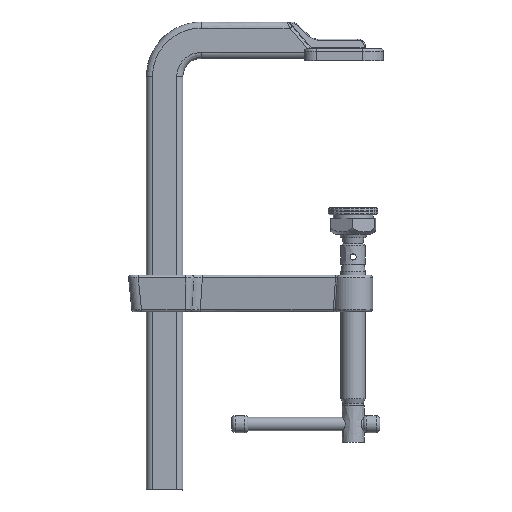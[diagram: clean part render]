
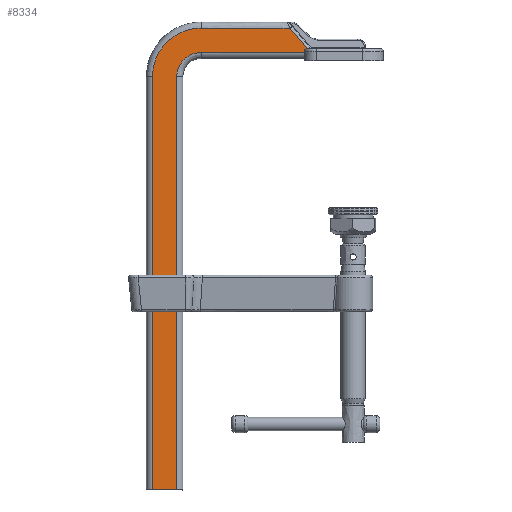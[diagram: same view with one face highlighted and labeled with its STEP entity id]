
A CAD part, front view. The second image highlights one B-rep face of the part: STEP entity #8334.
In plain terms, the highlighted free-form (B-spline) face has degree [1, 1] with [2, 2] control points.
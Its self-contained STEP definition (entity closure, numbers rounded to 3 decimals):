
#7576=CARTESIAN_POINT('',(145.,7.5,-353.));
#7577=VERTEX_POINT('',#7576);
#7584=CARTESIAN_POINT('',(165.,7.5,-353.));
#7585=VERTEX_POINT('',#7584);
#7586=CARTESIAN_POINT('',(145.,7.5,-353.));
#7587=CARTESIAN_POINT('',(165.,7.5,-353.));
#7588=B_SPLINE_CURVE_WITH_KNOTS('',1,(#7586,#7587),.POLYLINE_FORM.,.F.,.U.,(2,2),(0.202,0.798),.UNSPECIFIED.);
#7589=EDGE_CURVE('',#7577,#7585,#7588,.T.);
#7678=CARTESIAN_POINT('',(51.869,7.5,27.));
#7679=VERTEX_POINT('',#7678);
#7715=CARTESIAN_POINT('',(125.,7.5,27.));
#7716=VERTEX_POINT('',#7715);
#7723=CARTESIAN_POINT('',(51.869,7.5,27.));
#7724=CARTESIAN_POINT('',(125.,7.5,27.));
#7725=B_SPLINE_CURVE_WITH_KNOTS('',1,(#7723,#7724),.POLYLINE_FORM.,.F.,.U.,(2,2),(0.216,0.955),.UNSPECIFIED.);
#7726=EDGE_CURVE('',#7679,#7716,#7725,.T.);
#7940=CARTESIAN_POINT('',(125.,7.5,7.));
#7941=VERTEX_POINT('',#7940);
#7948=CARTESIAN_POINT('',(145.,7.5,-13.));
#7949=VERTEX_POINT('',#7948);
#7950=CARTESIAN_POINT('',(125.,7.5,7.));
#7951=CARTESIAN_POINT('',(133.284,7.5,7.));
#7952=CARTESIAN_POINT('',(139.142,7.5,1.142));
#7953=CARTESIAN_POINT('',(145.,7.5,-4.716));
#7954=CARTESIAN_POINT('',(145.,7.5,-13.));
#7955=(BOUNDED_CURVE()B_SPLINE_CURVE(2,(#7950,#7951,#7952,#7953,#7954),.CIRCULAR_ARC.,.F.,.U.)B_SPLINE_CURVE_WITH_KNOTS((3,2,3),(0.,0.5,1.),.UNSPECIFIED.)CURVE()GEOMETRIC_REPRESENTATION_ITEM()RATIONAL_B_SPLINE_CURVE((1.,0.924,1.,0.924,1.))REPRESENTATION_ITEM(''));
#7956=EDGE_CURVE('',#7941,#7949,#7955,.T.);
#7983=CARTESIAN_POINT('',(165.,7.5,-13.));
#7984=VERTEX_POINT('',#7983);
#7985=CARTESIAN_POINT('',(125.,7.5,27.));
#7986=CARTESIAN_POINT('',(141.569,7.5,27.));
#7987=CARTESIAN_POINT('',(153.284,7.5,15.284));
#7988=CARTESIAN_POINT('',(165.,7.5,3.569));
#7989=CARTESIAN_POINT('',(165.,7.5,-13.));
#7990=(BOUNDED_CURVE()B_SPLINE_CURVE(2,(#7985,#7986,#7987,#7988,#7989),.CIRCULAR_ARC.,.F.,.U.)B_SPLINE_CURVE_WITH_KNOTS((3,2,3),(0.,0.5,1.),.UNSPECIFIED.)CURVE()GEOMETRIC_REPRESENTATION_ITEM()RATIONAL_B_SPLINE_CURVE((1.,0.924,1.,0.924,1.))REPRESENTATION_ITEM(''));
#7991=EDGE_CURVE('',#7716,#7984,#7990,.T.);
#8110=CARTESIAN_POINT('',(145.,7.5,-13.));
#8111=CARTESIAN_POINT('',(145.,7.5,-353.));
#8112=B_SPLINE_CURVE_WITH_KNOTS('',1,(#8110,#8111),.POLYLINE_FORM.,.F.,.U.,(2,2),(0.,1.),.UNSPECIFIED.);
#8113=EDGE_CURVE('',#7949,#7577,#8112,.T.);
#8126=CARTESIAN_POINT('',(165.,7.5,-13.));
#8127=CARTESIAN_POINT('',(165.,7.5,-353.));
#8128=B_SPLINE_CURVE_WITH_KNOTS('',1,(#8126,#8127),.POLYLINE_FORM.,.F.,.U.,(2,2),(0.045,0.955),.UNSPECIFIED.);
#8129=EDGE_CURVE('',#7984,#7585,#8128,.T.);
#8274=CARTESIAN_POINT('',(39.987,7.5,7.));
#8275=VERTEX_POINT('',#8274);
#8283=CARTESIAN_POINT('',(39.987,7.5,7.));
#8284=CARTESIAN_POINT('',(125.,7.5,7.));
#8285=B_SPLINE_CURVE_WITH_KNOTS('',1,(#8283,#8284),.POLYLINE_FORM.,.F.,.U.,(2,2),(0.055,1.),.UNSPECIFIED.);
#8286=EDGE_CURVE('',#8275,#7941,#8285,.T.);
#8292=CARTESIAN_POINT('',(30.634,7.5,-366.154));
#8293=CARTESIAN_POINT('',(169.017,7.5,-366.154));
#8294=CARTESIAN_POINT('',(30.634,7.5,38.554));
#8295=CARTESIAN_POINT('',(169.017,7.5,38.554));
#8296=B_SPLINE_SURFACE_WITH_KNOTS('',1,1,((#8292,#8293),(#8294,#8295)),.PLANE_SURF.,.F.,.F.,.U.,(2,2),(2,2),(0.,1.),(0.,1.),.UNSPECIFIED.);
#8297=CARTESIAN_POINT('',(37.605,7.5,10.));
#8298=VERTEX_POINT('',#8297);
#8299=CARTESIAN_POINT('',(51.869,7.5,27.));
#8300=CARTESIAN_POINT('',(37.605,7.5,10.));
#8301=B_SPLINE_CURVE_WITH_KNOTS('',1,(#8299,#8300),.POLYLINE_FORM.,.F.,.U.,(2,2),(0.,0.93),.UNSPECIFIED.);
#8302=EDGE_CURVE('',#7679,#8298,#8301,.T.);
#8303=ORIENTED_EDGE('',*,*,#8302,.F.);
#8304=ORIENTED_EDGE('',*,*,#7726,.T.);
#8305=ORIENTED_EDGE('',*,*,#7991,.T.);
#8306=ORIENTED_EDGE('',*,*,#8129,.T.);
#8307=ORIENTED_EDGE('',*,*,#7589,.F.);
#8308=ORIENTED_EDGE('',*,*,#8113,.F.);
#8309=ORIENTED_EDGE('',*,*,#7956,.F.);
#8310=ORIENTED_EDGE('',*,*,#8286,.F.);
#8311=CARTESIAN_POINT('',(39.987,7.5,8.));
#8312=VERTEX_POINT('',#8311);
#8313=CARTESIAN_POINT('',(39.987,7.5,7.));
#8314=CARTESIAN_POINT('',(39.987,7.5,8.));
#8315=B_SPLINE_CURVE_WITH_KNOTS('',1,(#8313,#8314),.POLYLINE_FORM.,.F.,.U.,(2,2),(0.7,0.8),.UNSPECIFIED.);
#8316=EDGE_CURVE('',#8275,#8312,#8315,.T.);
#8317=ORIENTED_EDGE('',*,*,#8316,.T.);
#8318=CARTESIAN_POINT('',(37.984,7.5,10.));
#8319=VERTEX_POINT('',#8318);
#8320=CARTESIAN_POINT('',(37.984,7.5,10.));
#8321=CARTESIAN_POINT('',(39.093,7.5,10.));
#8322=CARTESIAN_POINT('',(39.987,7.5,9.107));
#8323=CARTESIAN_POINT('',(39.987,7.5,8.));
#8324=B_SPLINE_CURVE_WITH_KNOTS('',3,(#8320,#8321,#8322,#8323),.UNSPECIFIED.,.F.,.U.,(4,4),(0.,1.),.UNSPECIFIED.);
#8325=EDGE_CURVE('',#8319,#8312,#8324,.T.);
#8326=ORIENTED_EDGE('',*,*,#8325,.F.);
#8327=CARTESIAN_POINT('',(37.984,7.5,10.));
#8328=CARTESIAN_POINT('',(37.605,7.5,10.));
#8329=B_SPLINE_CURVE_WITH_KNOTS('',1,(#8327,#8328),.POLYLINE_FORM.,.F.,.U.,(2,2),(0.368,0.369),.UNSPECIFIED.);
#8330=EDGE_CURVE('',#8319,#8298,#8329,.T.);
#8331=ORIENTED_EDGE('',*,*,#8330,.T.);
#8332=EDGE_LOOP('',(#8303,#8304,#8305,#8306,#8307,#8308,#8309,#8310,#8317,#8326,#8331));
#8333=FACE_OUTER_BOUND('',#8332,.T.);
#8334=ADVANCED_FACE('',(#8333),#8296,.T.);
